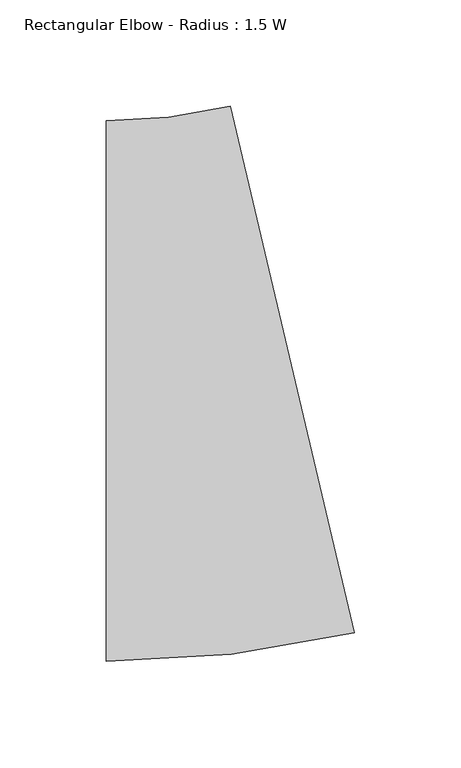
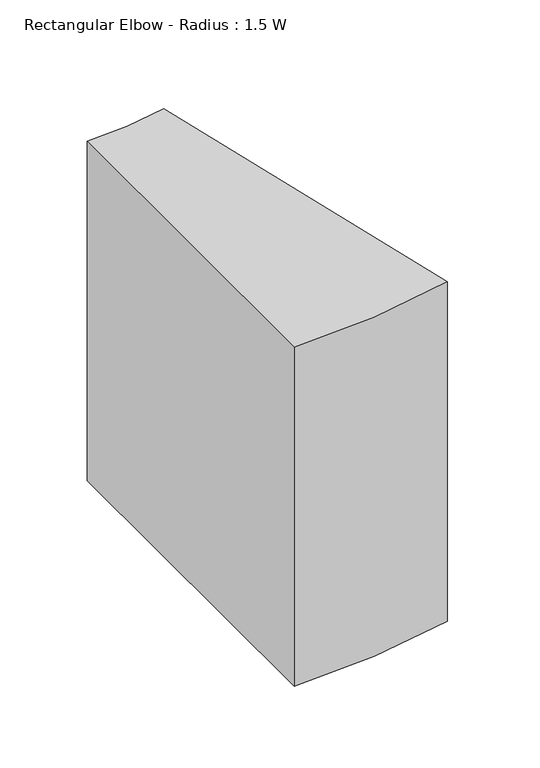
"""IFC4 building model written with IfcOpenShell, lengths in millimetres: duct fitting geometry, Rectangular Elbow - Radius : 1.5 W."""

from ifc_helpers import new_model, si_unit, point, frame, frame_2d, origin, place, context, project, spatial, polyline, circle_curve, trimmed, segment, composite_curve, outline, extrude, source, transform, mapped, element, save


def rectangular_elbow_radius_1_5_w_4707421c(model_context):
    return source(origin(), model_context, "Body", "SweptSolid", [
        extrude(outline(composite_curve([segment(trimmed(circle_curve(frame_2d((-44.219736, 381.0)), 508.0), [point((72.1322456, -113.4959215))], [point((-44.219736, -127.0))], False, "CARTESIAN"), True, "CONTINUOUS"), segment(polyline([(-44.219736, -127.0), (-44.219736, 127.0)]), True, "CONTINUOUS"), segment(trimmed(circle_curve(frame_2d((-44.219736, 381.0)), 254.0), [point((-44.219736, 127.0))], [point((13.9562548, 133.7520392))], True, "CARTESIAN"), True, "CONTINUOUS"), segment(polyline([(13.9562548, 133.7520392), (72.1322456, -113.4959215)]), True, "CONTINUOUS")], self_intersect=False)), frame((0.0, 0.0, -127.0), z_axis=(0.0, 0.0, 1.0), x_axis=(1.0, 0.0, 0.0)), (0.0, 0.0, 1.0), 254.0),
    ])


if __name__ == "__main__":
    model = new_model("IFC4")
    model_context = context("Model", 3, world=origin())
    ifc_project = project(units=[si_unit("LENGTHUNIT", "METRE", prefix="MILLI")], contexts=[model_context])
    site = spatial("IfcSite", under=ifc_project)
    building = spatial("IfcBuilding", under=site)
    placement = place(None, origin())
    rectangular_elbow_radius_1_5_w_shape = rectangular_elbow_radius_1_5_w_4707421c(model_context)
    element("IfcDuctFitting", 1, ObjectType="Rectangular Elbow - Radius : 1.5 W", at=placement, inside=building, context=model_context, shape_type="MappedRepresentation", body=[
        mapped(rectangular_elbow_radius_1_5_w_shape, transform((0.0, 0.0, 0.0), x_axis=(1.0, 0.0, 0.0), y_axis=(0.0, 1.0, 0.0), z_axis=(0.0, 0.0, 1.0))),
    ])
    save(model, "model.ifc")
